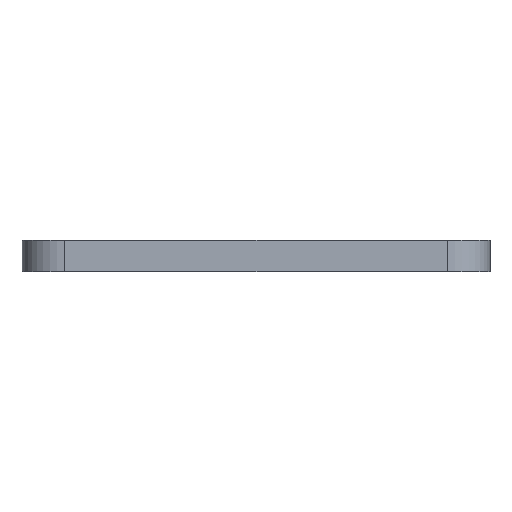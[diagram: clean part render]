
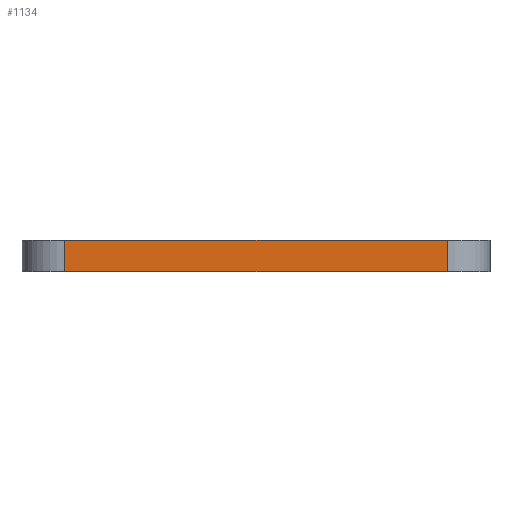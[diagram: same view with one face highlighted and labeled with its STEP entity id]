
A CAD part, left-side view. The second image highlights one B-rep face of the part: STEP entity #1134.
In plain terms, the highlighted planar face has unit normal (-1, 0, 0).
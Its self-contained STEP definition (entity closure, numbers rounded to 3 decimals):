
#44 = PLANE('',#45);
#45 = AXIS2_PLACEMENT_3D('',#46,#47,#48);
#46 = CARTESIAN_POINT('',(0.,0.,0.));
#47 = DIRECTION('',(0.,0.,1.));
#48 = DIRECTION('',(1.,0.,-0.));
#72 = CYLINDRICAL_SURFACE('',#73,2.);
#73 = AXIS2_PLACEMENT_3D('',#74,#75,#76);
#74 = CARTESIAN_POINT('',(-28.,-9.,0.));
#75 = DIRECTION('',(0.,0.,1.));
#76 = DIRECTION('',(0.,-1.,0.));
#100 = PLANE('',#101);
#101 = AXIS2_PLACEMENT_3D('',#102,#103,#104);
#102 = CARTESIAN_POINT('',(0.,0.,1.5));
#103 = DIRECTION('',(0.,0.,1.));
#104 = DIRECTION('',(1.,0.,-0.));
#252 = VERTEX_POINT('',#253);
#253 = CARTESIAN_POINT('',(-30.,9.,0.));
#268 = CYLINDRICAL_SURFACE('',#269,2.);
#269 = AXIS2_PLACEMENT_3D('',#270,#271,#272);
#270 = CARTESIAN_POINT('',(-28.,9.,0.));
#271 = DIRECTION('',(0.,0.,1.));
#272 = DIRECTION('',(-0.,1.,0.));
#280 = EDGE_CURVE('',#252,#281,#283,.T.);
#281 = VERTEX_POINT('',#282);
#282 = CARTESIAN_POINT('',(-30.,-9.,0.));
#283 = SURFACE_CURVE('',#284,(#288,#295),.PCURVE_S1.);
#284 = LINE('',#285,#286);
#285 = CARTESIAN_POINT('',(-30.,11.,0.));
#286 = VECTOR('',#287,1.);
#287 = DIRECTION('',(0.,-1.,0.));
#288 = PCURVE('',#44,#289);
#289 = DEFINITIONAL_REPRESENTATION('',(#290),#294);
#290 = LINE('',#291,#292);
#291 = CARTESIAN_POINT('',(-30.,11.));
#292 = VECTOR('',#293,1.);
#293 = DIRECTION('',(0.,-1.));
#294 = ( GEOMETRIC_REPRESENTATION_CONTEXT(2) 
PARAMETRIC_REPRESENTATION_CONTEXT() REPRESENTATION_CONTEXT('2D SPACE',''
  ) );
#295 = PCURVE('',#296,#301);
#296 = PLANE('',#297);
#297 = AXIS2_PLACEMENT_3D('',#298,#299,#300);
#298 = CARTESIAN_POINT('',(-30.,11.,0.));
#299 = DIRECTION('',(1.,0.,-0.));
#300 = DIRECTION('',(0.,-1.,0.));
#301 = DEFINITIONAL_REPRESENTATION('',(#302),#306);
#302 = LINE('',#303,#304);
#303 = CARTESIAN_POINT('',(0.,0.));
#304 = VECTOR('',#305,1.);
#305 = DIRECTION('',(1.,0.));
#306 = ( GEOMETRIC_REPRESENTATION_CONTEXT(2) 
PARAMETRIC_REPRESENTATION_CONTEXT() REPRESENTATION_CONTEXT('2D SPACE',''
  ) );
#656 = EDGE_CURVE('',#281,#657,#659,.T.);
#657 = VERTEX_POINT('',#658);
#658 = CARTESIAN_POINT('',(-30.,-9.,1.5));
#659 = SURFACE_CURVE('',#660,(#664,#671),.PCURVE_S1.);
#660 = LINE('',#661,#662);
#661 = CARTESIAN_POINT('',(-30.,-9.,0.));
#662 = VECTOR('',#663,1.);
#663 = DIRECTION('',(0.,0.,1.));
#664 = PCURVE('',#72,#665);
#665 = DEFINITIONAL_REPRESENTATION('',(#666),#670);
#666 = LINE('',#667,#668);
#667 = CARTESIAN_POINT('',(-1.571,0.));
#668 = VECTOR('',#669,1.);
#669 = DIRECTION('',(-0.,1.));
#670 = ( GEOMETRIC_REPRESENTATION_CONTEXT(2) 
PARAMETRIC_REPRESENTATION_CONTEXT() REPRESENTATION_CONTEXT('2D SPACE',''
  ) );
#671 = PCURVE('',#296,#672);
#672 = DEFINITIONAL_REPRESENTATION('',(#673),#677);
#673 = LINE('',#674,#675);
#674 = CARTESIAN_POINT('',(20.,0.));
#675 = VECTOR('',#676,1.);
#676 = DIRECTION('',(0.,-1.));
#677 = ( GEOMETRIC_REPRESENTATION_CONTEXT(2) 
PARAMETRIC_REPRESENTATION_CONTEXT() REPRESENTATION_CONTEXT('2D SPACE',''
  ) );
#832 = VERTEX_POINT('',#833);
#833 = CARTESIAN_POINT('',(-30.,9.,1.5));
#855 = EDGE_CURVE('',#832,#657,#856,.T.);
#856 = SURFACE_CURVE('',#857,(#861,#868),.PCURVE_S1.);
#857 = LINE('',#858,#859);
#858 = CARTESIAN_POINT('',(-30.,11.,1.5));
#859 = VECTOR('',#860,1.);
#860 = DIRECTION('',(0.,-1.,0.));
#861 = PCURVE('',#100,#862);
#862 = DEFINITIONAL_REPRESENTATION('',(#863),#867);
#863 = LINE('',#864,#865);
#864 = CARTESIAN_POINT('',(-30.,11.));
#865 = VECTOR('',#866,1.);
#866 = DIRECTION('',(0.,-1.));
#867 = ( GEOMETRIC_REPRESENTATION_CONTEXT(2) 
PARAMETRIC_REPRESENTATION_CONTEXT() REPRESENTATION_CONTEXT('2D SPACE',''
  ) );
#868 = PCURVE('',#296,#869);
#869 = DEFINITIONAL_REPRESENTATION('',(#870),#874);
#870 = LINE('',#871,#872);
#871 = CARTESIAN_POINT('',(0.,-1.5));
#872 = VECTOR('',#873,1.);
#873 = DIRECTION('',(1.,0.));
#874 = ( GEOMETRIC_REPRESENTATION_CONTEXT(2) 
PARAMETRIC_REPRESENTATION_CONTEXT() REPRESENTATION_CONTEXT('2D SPACE',''
  ) );
#1134 = ADVANCED_FACE('',(#1135),#296,.F.);
#1135 = FACE_BOUND('',#1136,.F.);
#1136 = EDGE_LOOP('',(#1137,#1138,#1159,#1160));
#1137 = ORIENTED_EDGE('',*,*,#280,.F.);
#1138 = ORIENTED_EDGE('',*,*,#1139,.T.);
#1139 = EDGE_CURVE('',#252,#832,#1140,.T.);
#1140 = SURFACE_CURVE('',#1141,(#1145,#1152),.PCURVE_S1.);
#1141 = LINE('',#1142,#1143);
#1142 = CARTESIAN_POINT('',(-30.,9.,0.));
#1143 = VECTOR('',#1144,1.);
#1144 = DIRECTION('',(0.,0.,1.));
#1145 = PCURVE('',#296,#1146);
#1146 = DEFINITIONAL_REPRESENTATION('',(#1147),#1151);
#1147 = LINE('',#1148,#1149);
#1148 = CARTESIAN_POINT('',(2.,0.));
#1149 = VECTOR('',#1150,1.);
#1150 = DIRECTION('',(0.,-1.));
#1151 = ( GEOMETRIC_REPRESENTATION_CONTEXT(2) 
PARAMETRIC_REPRESENTATION_CONTEXT() REPRESENTATION_CONTEXT('2D SPACE',''
  ) );
#1152 = PCURVE('',#268,#1153);
#1153 = DEFINITIONAL_REPRESENTATION('',(#1154),#1158);
#1154 = LINE('',#1155,#1156);
#1155 = CARTESIAN_POINT('',(1.571,0.));
#1156 = VECTOR('',#1157,1.);
#1157 = DIRECTION('',(0.,1.));
#1158 = ( GEOMETRIC_REPRESENTATION_CONTEXT(2) 
PARAMETRIC_REPRESENTATION_CONTEXT() REPRESENTATION_CONTEXT('2D SPACE',''
  ) );
#1159 = ORIENTED_EDGE('',*,*,#855,.T.);
#1160 = ORIENTED_EDGE('',*,*,#656,.F.);
